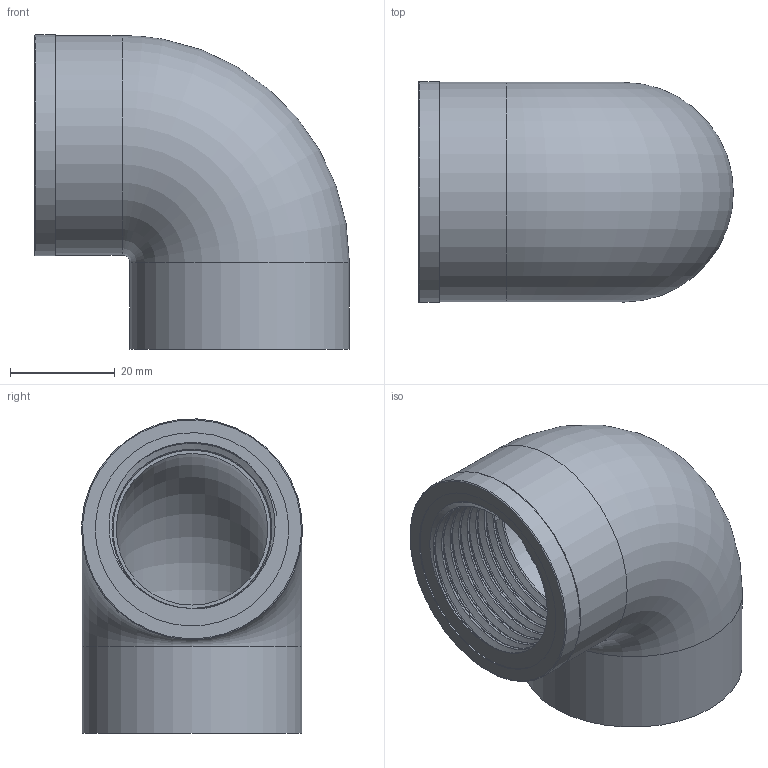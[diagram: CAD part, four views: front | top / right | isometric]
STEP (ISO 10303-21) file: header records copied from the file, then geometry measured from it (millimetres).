
FILE_DESCRIPTION(/* description */ (''),/* implementation_level */ '2;1');
FILE_NAME(/* name */ 'C:\Users\POLYPIPE\Desktop\DATASET INVENTOR\LIBRERIA EFFAST\RACCORDI 3DxWEB\RGR\3D_RGRGOR\3D_RGRGOR032D.stp',/* time_stamp */ '2018-01-19T17:46:46+01:00',/* author */ ('POLYPIPE'),/* organization */ (''),/* preprocessor_version */ 'ST-DEVELOPER v16.1',/* originating_system */ 'Autodesk Inventor 2016',/* authorisation */ '');
FILE_SCHEMA (('CONFIG_CONTROL_DESIGN'));
Length unit declared in the file: centimetre
Products named in the file (1): 3D_RGRGOR032D
Bounding box: 60.25 x 42.25 x 60.13 mm (x, y, z)
Volume: 42352.5 mm3; surface area: 18578 mm2
Topology: 1 solids, 1 shells, 21 faces, 41 edges, 26 vertices
Faces by surface type: plane 7, cylinder 6, bspline 5, torus 3
Full cylindrical faces by diameter (mm): 30.291 x1, 32 x1, 37 x1, 42 x2, 42.3 x1
Entity records: 3518 total; most frequent: CARTESIAN_POINT 3084, DIRECTION 71, ORIENTED_EDGE 62, EDGE_LOOP 36, AXIS2_PLACEMENT_3D 34, EDGE_CURVE 31, VERTEX_POINT 25, STYLED_ITEM 22
